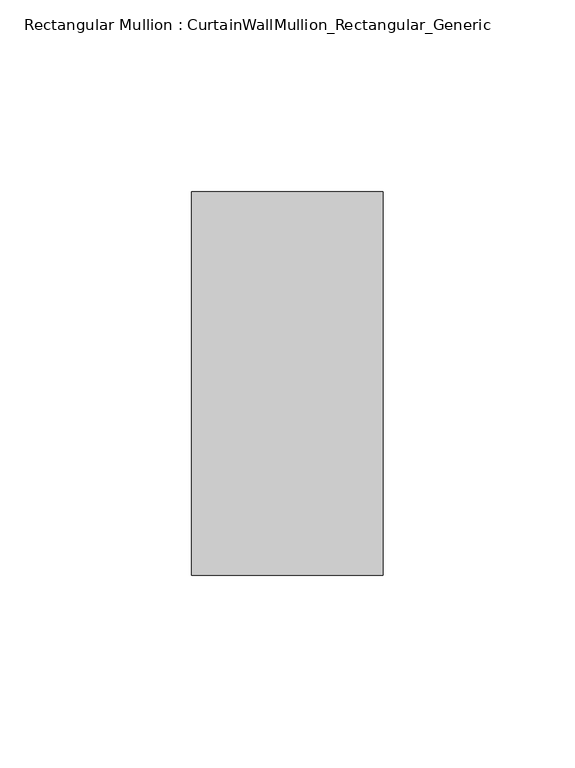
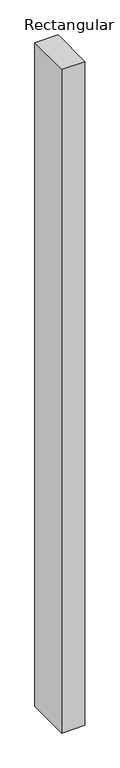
"""IFC4 building model written with IfcOpenShell, lengths in millimetres: member geometry, Rectangular Mullion : CurtainWallMullion_Rectangular_Generic."""

from ifc_helpers import new_model, si_unit, frame, origin, place, context, project, spatial, polyline, outline, extrude, source, transform, mapped, element, save


def rectangular_mullion_curtainwallmullion_rectangular_generic_e9761bef(model_context):
    return source(origin(), model_context, "Body", "SweptSolid", [
        extrude(outline(polyline([(25.0, 50.0), (25.0, -50.0), (-25.0, -50.0), (-25.0, 50.0), (25.0, 50.0)])), frame((0.0, 0.0, -1510.0), z_axis=(0.0, 0.0, 1.0), x_axis=(1.0, 0.0, 0.0)), (0.0, 0.0, 1.0), 1510.0),
    ])


if __name__ == "__main__":
    model = new_model("IFC4")
    model_context = context("Model", 3, world=origin())
    ifc_project = project(units=[si_unit("LENGTHUNIT", "METRE", prefix="MILLI")], contexts=[model_context])
    site = spatial("IfcSite", under=ifc_project)
    building = spatial("IfcBuilding", under=site)
    placement = place(None, origin())
    rectangular_mullion_curtainwallmullion_rectangular_generic_shape = rectangular_mullion_curtainwallmullion_rectangular_generic_e9761bef(model_context)
    element("IfcMember", 1, ObjectType="Rectangular Mullion : CurtainWallMullion_Rectangular_Generic", at=placement, inside=building, context=model_context, shape_type="MappedRepresentation", body=[
        mapped(rectangular_mullion_curtainwallmullion_rectangular_generic_shape, transform((0.0, 0.0, 0.0), x_axis=(1.0, 0.0, 0.0), y_axis=(0.0, 1.0, 0.0), z_axis=(0.0, 0.0, 1.0))),
    ])
    save(model, "model.ifc")
